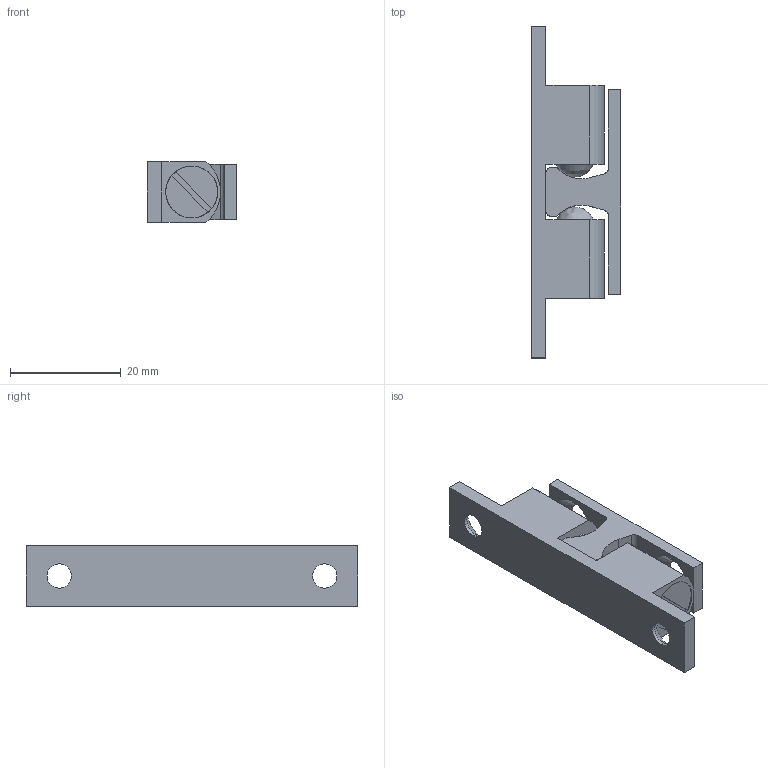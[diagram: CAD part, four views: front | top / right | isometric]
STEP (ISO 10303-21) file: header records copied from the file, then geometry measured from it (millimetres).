
FILE_DESCRIPTION (( 'STEP AP203' ), '1' );
FILE_NAME ('3147.STEP', '2016-02-01T08:04:42', ( '' ), ( '' ), 'SwSTEP 2.0', 'SolidWorks 2014', '' );
FILE_SCHEMA (( 'CONFIG_CONTROL_DESIGN' ));
Length unit declared in the file: millimetre
Products named in the file (3): 2^3147; 3147; 1^3147
Assembly tree (2 placements, depth 2):
  3147
    1^3147
    2^3147
Bounding box: 16.1 x 60 x 11 mm (x, y, z)
Volume: 6089.4 mm3; surface area: 3974.5 mm2
Topology: 2 solids, 2 shells, 76 faces, 182 edges, 114 vertices
Faces by surface type: plane 42, cylinder 23, cone 8, bspline 3
Entity records: 2671 total; most frequent: CARTESIAN_POINT 554, DIRECTION 397, ORIENTED_EDGE 364, EDGE_CURVE 182, AXIS2_PLACEMENT_3D 141, VECTOR 115, LINE 115, VERTEX_POINT 114
